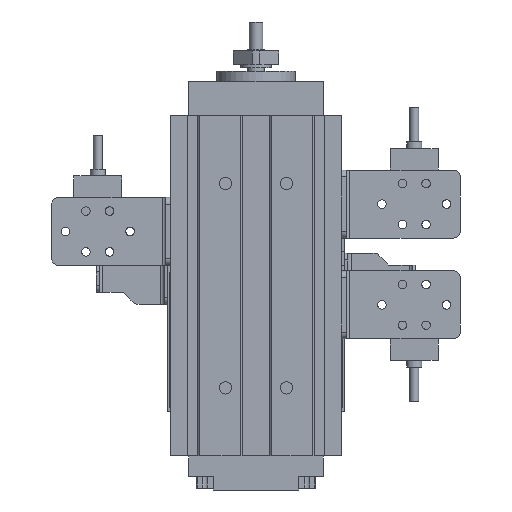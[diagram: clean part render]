
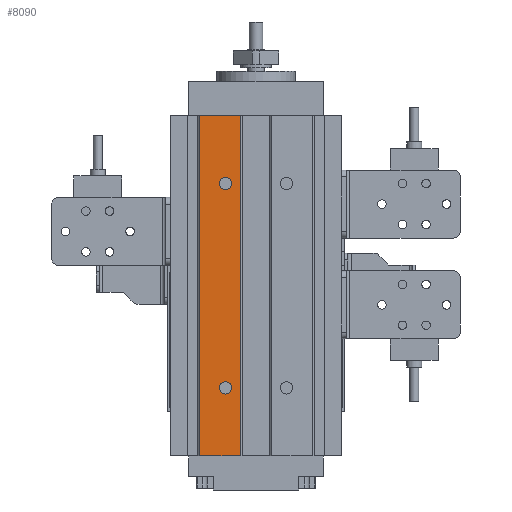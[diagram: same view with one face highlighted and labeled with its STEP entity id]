
A CAD part, front view. The second image highlights one B-rep face of the part: STEP entity #8090.
In plain terms, the highlighted planar face has unit normal (0, -1, 0).
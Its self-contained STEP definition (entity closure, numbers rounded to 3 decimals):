
#41 = DIRECTION ( 'NONE',  ( 0., 1., 0. ) ) ;
#1087 = LINE ( 'NONE', #15979, #14498 ) ;
#1525 = EDGE_CURVE ( 'NONE', #19264, #7120, #22434, .T. ) ;
#1701 = LINE ( 'NONE', #20995, #15906 ) ;
#2008 = CARTESIAN_POINT ( 'NONE',  ( -16.586, -4., -50. ) ) ;
#2442 = VERTEX_POINT ( 'NONE', #20628 ) ;
#2711 = EDGE_LOOP ( 'NONE', ( #15092, #5432 ) ) ;
#2995 = CARTESIAN_POINT ( 'NONE',  ( -4.586, -4., 50. ) ) ;
#3164 = VERTEX_POINT ( 'NONE', #17813 ) ;
#5432 = ORIENTED_EDGE ( 'NONE', *, *, #12640, .T. ) ;
#6184 = DIRECTION ( 'NONE',  ( 0., 1., 0. ) ) ;
#6500 = ORIENTED_EDGE ( 'NONE', *, *, #28304, .F. ) ;
#7120 = VERTEX_POINT ( 'NONE', #29961 ) ;
#8090 = ADVANCED_FACE ( 'NONE', ( #30347, #25939, #21498 ), #18733, .F. ) ;
#8265 = EDGE_CURVE ( 'NONE', #32909, #8375, #31680, .T. ) ;
#8375 = VERTEX_POINT ( 'NONE', #20582 ) ;
#8761 = EDGE_LOOP ( 'NONE', ( #19146, #15788 ) ) ;
#9868 = AXIS2_PLACEMENT_3D ( 'NONE', #10607, #6184, #21065 ) ;
#10452 = CARTESIAN_POINT ( 'NONE',  ( -9., -4., -30. ) ) ;
#10607 = CARTESIAN_POINT ( 'NONE',  ( -9., -4., 30. ) ) ;
#11739 = EDGE_CURVE ( 'NONE', #24275, #33032, #1087, .T. ) ;
#11966 = EDGE_CURVE ( 'NONE', #33032, #2442, #18018, .T. ) ;
#12640 = EDGE_CURVE ( 'NONE', #7120, #19264, #13030, .T. ) ;
#13030 = CIRCLE ( 'NONE', #9868, 1.8 ) ;
#13624 = ORIENTED_EDGE ( 'NONE', *, *, #11739, .T. ) ;
#13631 = CARTESIAN_POINT ( 'NONE',  ( -16.586, -4., -50. ) ) ;
#14358 = DIRECTION ( 'NONE',  ( 0., 1., 0. ) ) ;
#14413 = DIRECTION ( 'NONE',  ( 0., 1., 0. ) ) ;
#14498 = VECTOR ( 'NONE', #30885, 1000. ) ;
#14920 = CARTESIAN_POINT ( 'NONE',  ( -9., -4., 30. ) ) ;
#15092 = ORIENTED_EDGE ( 'NONE', *, *, #1525, .T. ) ;
#15788 = ORIENTED_EDGE ( 'NONE', *, *, #8265, .T. ) ;
#15906 = VECTOR ( 'NONE', #29812, 1000. ) ;
#15979 = CARTESIAN_POINT ( 'NONE',  ( -16.586, -4., 50. ) ) ;
#16326 = AXIS2_PLACEMENT_3D ( 'NONE', #14920, #41, #19293 ) ;
#16855 = CARTESIAN_POINT ( 'NONE',  ( -16.586, -4., 50. ) ) ;
#17813 = CARTESIAN_POINT ( 'NONE',  ( -4.586, -4., 50. ) ) ;
#17855 = LINE ( 'NONE', #2995, #25691 ) ;
#17909 = EDGE_LOOP ( 'NONE', ( #27367, #31089, #6500, #13624 ) ) ;
#18018 = LINE ( 'NONE', #13631, #25085 ) ;
#18733 = PLANE ( 'NONE',  #24181 ) ;
#19146 = ORIENTED_EDGE ( 'NONE', *, *, #30725, .T. ) ;
#19264 = VERTEX_POINT ( 'NONE', #32111 ) ;
#19293 = DIRECTION ( 'NONE',  ( 0., 0., 1. ) ) ;
#20195 = CARTESIAN_POINT ( 'NONE',  ( -9., -4., -31.8 ) ) ;
#20391 = EDGE_CURVE ( 'NONE', #3164, #2442, #17855, .T. ) ;
#20582 = CARTESIAN_POINT ( 'NONE',  ( -9., -4., -28.2 ) ) ;
#20628 = CARTESIAN_POINT ( 'NONE',  ( -4.586, -4., -50. ) ) ;
#20995 = CARTESIAN_POINT ( 'NONE',  ( -16.586, -4., 50. ) ) ;
#21065 = DIRECTION ( 'NONE',  ( 0., 0., 1. ) ) ;
#21498 = FACE_OUTER_BOUND ( 'NONE', #17909, .T. ) ;
#22279 = DIRECTION ( 'NONE',  ( 0., 0., -1. ) ) ;
#22434 = CIRCLE ( 'NONE', #16326, 1.8 ) ;
#23712 = DIRECTION ( 'NONE',  ( 0., 0., 1. ) ) ;
#24181 = AXIS2_PLACEMENT_3D ( 'NONE', #33573, #14358, #29212 ) ;
#24275 = VERTEX_POINT ( 'NONE', #16855 ) ;
#25085 = VECTOR ( 'NONE', #28507, 1000. ) ;
#25591 = AXIS2_PLACEMENT_3D ( 'NONE', #33630, #14413, #29269 ) ;
#25691 = VECTOR ( 'NONE', #22279, 1000. ) ;
#25939 = FACE_BOUND ( 'NONE', #2711, .T. ) ;
#27367 = ORIENTED_EDGE ( 'NONE', *, *, #11966, .T. ) ;
#27408 = CIRCLE ( 'NONE', #29980, 1.8 ) ;
#28304 = EDGE_CURVE ( 'NONE', #24275, #3164, #1701, .T. ) ;
#28507 = DIRECTION ( 'NONE',  ( 1., 0., 0. ) ) ;
#29212 = DIRECTION ( 'NONE',  ( 0., 0., 1. ) ) ;
#29269 = DIRECTION ( 'NONE',  ( 0., 0., 1. ) ) ;
#29731 = DIRECTION ( 'NONE',  ( 0., 1., 0. ) ) ;
#29812 = DIRECTION ( 'NONE',  ( 1., 0., 0. ) ) ;
#29961 = CARTESIAN_POINT ( 'NONE',  ( -9., -4., 28.2 ) ) ;
#29980 = AXIS2_PLACEMENT_3D ( 'NONE', #10452, #29731, #23712 ) ;
#30347 = FACE_BOUND ( 'NONE', #8761, .T. ) ;
#30725 = EDGE_CURVE ( 'NONE', #8375, #32909, #27408, .T. ) ;
#30885 = DIRECTION ( 'NONE',  ( 0., 0., -1. ) ) ;
#31089 = ORIENTED_EDGE ( 'NONE', *, *, #20391, .F. ) ;
#31680 = CIRCLE ( 'NONE', #25591, 1.8 ) ;
#32111 = CARTESIAN_POINT ( 'NONE',  ( -9., -4., 31.8 ) ) ;
#32909 = VERTEX_POINT ( 'NONE', #20195 ) ;
#33032 = VERTEX_POINT ( 'NONE', #2008 ) ;
#33573 = CARTESIAN_POINT ( 'NONE',  ( -16.586, -4., 50. ) ) ;
#33630 = CARTESIAN_POINT ( 'NONE',  ( -9., -4., -30. ) ) ;
